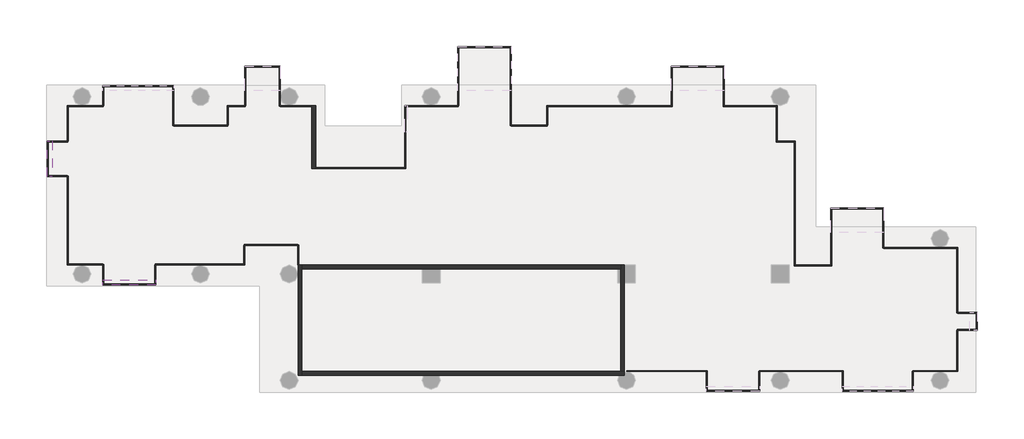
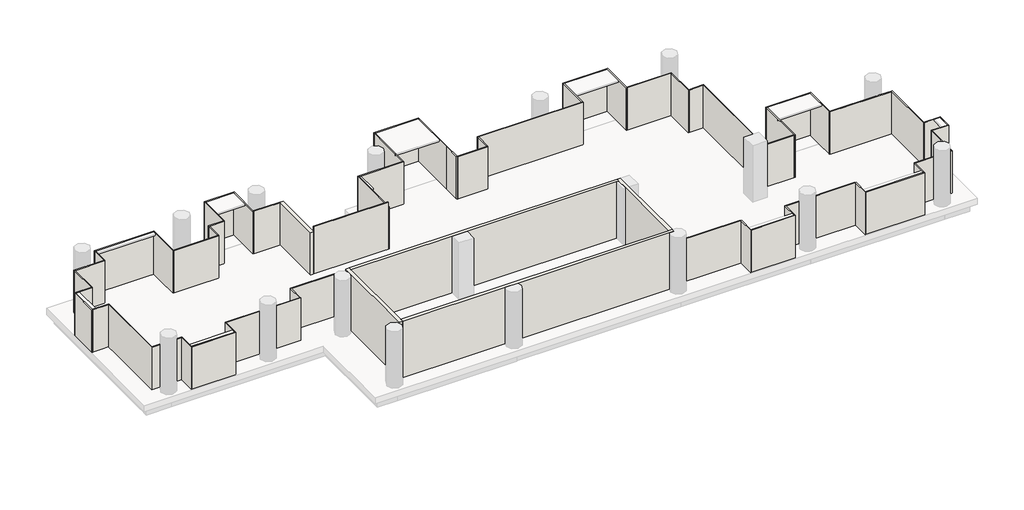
# One storey, part 1 of 2: 65 walls, 2 slabs.
"""IFC4 building model written with IfcOpenShell, lengths in millimetres."""

from ifc_helpers import new_model, si_unit, frame, origin, place, context, project, spatial, polyline, outline, extrude, faceted_brep, element, save

model = new_model("IFC4")

# Units and contexts
model_context = context("Model", 3, world=origin())
ifc_project = project(units=[si_unit("LENGTHUNIT", "METRE", prefix="MILLI")], contexts=[model_context])

# Site, building, storey
site = spatial("IfcSite", under=ifc_project)
building = spatial("IfcBuilding", under=site)
storey = spatial("IfcBuildingStorey", under=building, Name="TW-L 21", Elevation=74799.9999686)

# Slabs
placement = place(None, origin())
element("IfcSlab", 1, ObjectType="AJN-ARC-SLAB-10cm", at=placement, inside=storey, context=model_context, shape_type="SweptSolid", body=[
    extrude(outline(polyline([(105847.1743518, 29750.0), (103147.1743518, 29750.0), (103147.1743518, 30000.0), (105847.1743518, 30000.0), (105847.1743518, 29750.0)])), frame((0.0, 0.0, 77399.9999686), z_axis=(0.0, 0.0, 1.0), x_axis=(1.0, 0.0, 0.0)), (0.0, 0.0, 1.0), 100.0),
])
element("IfcSlab", 2, ObjectType="AJN-ARC-SLAB-10cm", at=placement, inside=storey, context=model_context, shape_type="SweptSolid", body=[
    extrude(outline(polyline([(100600.0, 35250.0), (100347.1743518, 35250.0), (100347.1743518, 37050.0), (100600.0, 37050.0), (100600.0, 35250.0)])), frame((0.0, 0.0, 77399.9999686), z_axis=(0.0, 0.0, 1.0), x_axis=(1.0, 0.0, 0.0)), (0.0, 0.0, 1.0), 100.0),
])

# Walls
element("IfcWall", 3, ObjectType="AJN-ARC-CONCRETE WALL-20cm", at=placement, inside=storey, context=model_context, shape_type="Brep", body=[
    faceted_brep([(113050.0, 30750.0, 78399.9999686), (113050.0, 30750.0, 74799.9999686), (113050.0, 25150.0, 74799.9999686), (113050.0, 25150.0, 78399.9999686), (113250.0, 30750.0, 74799.9999686), (113250.0, 30750.0, 78399.9999686), (113250.0, 30550.0, 78399.9999686), (113250.0, 25350.0, 78399.9999686), (113250.0, 25150.0, 78399.9999686), (113250.0, 25150.0, 74799.9999686), (113250.0, 25350.0, 74799.9999686), (113250.0, 30550.0, 74799.9999686), (113097.1743518, 30750.0, 74799.9999686)], [[[0, 1, 2, 3]], [[4, 5, 6, 7, 8, 9, 10, 11]], [[2, 1, 12, 4, 11, 10, 9]], [[0, 3, 8, 7, 6, 5]], [[3, 2, 9, 8]], [[0, 5, 4, 12, 1]]]),
])
element("IfcWall", 4, ObjectType="AJN-ARC-CONCRETE WALL-20cm", at=placement, inside=storey, context=model_context, shape_type="Brep", body=[
    faceted_brep([(113250.0, 25150.0, 74799.9999686), (119425.8342613, 25150.0, 74799.9999686), (120174.1657387, 25150.0, 74799.9999686), (129325.8342613, 25150.0, 74799.9999686), (129600.0, 25150.0, 74799.9999686), (129600.0, 25150.0, 78399.9999686), (129325.8342613, 25150.0, 78399.9999686), (120174.1657387, 25150.0, 78399.9999686), (119425.8342613, 25150.0, 78399.9999686), (113250.0, 25150.0, 78399.9999686), (113250.0, 25350.0, 74799.9999686), (113250.0, 25350.0, 78399.9999686), (129400.0, 25350.0, 78399.9999686), (129600.0, 25350.0, 78399.9999686), (129600.0, 25350.0, 74799.9999686), (129400.0, 25350.0, 74799.9999686), (129600.0, 25338.7482194, 74799.9999686), (129600.0, 25338.7482194, 78399.9999686)], [[[0, 1, 2, 3, 4, 5, 6, 7, 8, 9]], [[10, 11, 12, 13, 14, 15]], [[4, 3, 2, 1, 0, 10, 15, 14, 16]], [[9, 8, 7, 6, 5, 17, 13, 12, 11]], [[5, 4, 16, 14, 13, 17]], [[0, 9, 11, 10]]]),
])
element("IfcWall", 5, ObjectType="AJN-ARC-CONCRETE WALL-20cm", at=placement, inside=storey, context=model_context, shape_type="Brep", body=[
    faceted_brep([(129600.0, 25350.0, 74799.9999686), (129600.0, 29850.0, 74799.9999686), (129600.0, 30750.0, 74799.9999686), (129600.0, 30750.0, 78399.9999686), (129600.0, 29850.0, 78399.9999686), (129600.0, 25350.0, 78399.9999686), (129400.0, 25350.0, 74799.9999686), (129400.0, 25350.0, 78399.9999686), (129400.0, 29850.0, 78399.9999686), (129400.0, 30550.0, 78399.9999686), (129400.0, 30750.0, 78399.9999686), (129400.0, 30750.0, 74799.9999686), (129400.0, 30550.0, 74799.9999686), (129400.0, 29850.0, 74799.9999686)], [[[0, 1, 2, 3, 4, 5]], [[6, 7, 8, 9, 10, 11, 12, 13]], [[2, 1, 0, 6, 13, 12, 11]], [[5, 4, 3, 10, 9, 8, 7]], [[3, 2, 11, 10]], [[0, 5, 7, 6]]]),
])
element("IfcWall", 6, ObjectType="AJN-ARC-CONCRETE WALL-20cm", at=placement, inside=storey, context=model_context, shape_type="Brep", body=[
    faceted_brep([(129400.0, 30750.0, 74799.9999686), (113250.0, 30750.0, 74799.9999686), (113250.0, 30750.0, 78399.9999686), (129400.0, 30750.0, 78399.9999686), (129400.0, 30550.0, 74799.9999686), (129400.0, 30550.0, 78399.9999686), (129250.0, 30550.0, 78399.9999686), (120250.0, 30550.0, 78399.9999686), (119350.0, 30550.0, 78399.9999686), (113250.0, 30550.0, 78399.9999686), (113250.0, 30550.0, 74799.9999686), (119350.0, 30550.0, 74799.9999686), (120250.0, 30550.0, 74799.9999686), (129250.0, 30550.0, 74799.9999686)], [[[0, 1, 2, 3]], [[4, 5, 6, 7, 8, 9, 10, 11, 12, 13]], [[1, 0, 4, 13, 12, 11, 10]], [[3, 2, 9, 8, 7, 6, 5]], [[0, 3, 5, 4]], [[1, 10, 9, 2]]]),
])
element("IfcWall", 7, ObjectType="AJN-ARC-CONCRETE WALL-20cm", at=placement, inside=storey, context=model_context, shape_type="Brep", body=[
    faceted_brep([(113950.0, 35650.0, 74799.9999686), (113950.0, 38850.001152, 74799.9999686), (113950.0, 38850.001152, 77499.9999686), (113950.0, 35650.0, 77499.9999686), (113750.0, 35650.0, 74799.9999686), (113750.0, 35650.0, 77499.9999686), (113750.0, 38800.001024, 77499.9999686), (113750.0, 38850.001024, 77499.9999686), (113750.0, 38850.001024, 74799.9999686), (113750.0, 38800.001024, 74799.9999686)], [[[0, 1, 2, 3]], [[4, 5, 6, 7, 8, 9]], [[1, 0, 4, 9, 8]], [[3, 2, 7, 6, 5]], [[0, 3, 5, 4]], [[2, 1, 8, 7]]]),
])
element("IfcWall", 8, ObjectType="AJN-ARC-GLASS-50mm", at=placement, inside=storey, context=model_context, shape_type="SweptSolid", body=[
    extrude(outline(polyline([(112150.0, 38850.0), (113750.0, 38850.001024), (113750.0, 38800.001024), (112150.000032, 38800.0), (112150.0, 38850.0)])), frame((0.0, 0.0, 74799.9999686), z_axis=(0.0, 0.0, 1.0), x_axis=(1.0, 0.0, 0.0)), (0.0, 0.0, 1.0), 2700.0),
])
element("IfcWall", 9, ObjectType="AJN-ARC-GLASS-50mm", at=placement, inside=storey, context=model_context, shape_type="Brep", body=[
    faceted_brep([(112150.0, 38824.999984, 74799.9999686), (112150.0, 40850.0, 74799.9999686), (112150.0, 40850.0, 77499.9999686), (112150.0, 38824.999984, 77499.9999686), (112100.0, 38824.999984, 74799.9999686), (112100.0, 38824.999984, 77499.9999686), (112100.0, 40800.0, 77499.9999686), (112100.0, 40850.0, 77499.9999686), (112100.0, 40850.0, 74799.9999686), (112100.0, 40800.0, 74799.9999686)], [[[0, 1, 2, 3]], [[4, 5, 6, 7, 8, 9]], [[1, 0, 4, 9, 8]], [[3, 2, 7, 6, 5]], [[0, 3, 5, 4]], [[2, 1, 8, 7]]]),
])
element("IfcWall", 10, ObjectType="AJN-ARC-GLASS-50mm", at=placement, inside=storey, context=model_context, shape_type="Brep", body=[
    faceted_brep([(112100.0, 40850.0, 74799.9999686), (110350.0, 40850.0, 74799.9999686), (110350.0, 40850.0, 77499.9999686), (112100.0, 40850.0, 77499.9999686), (112100.0, 40800.0, 74799.9999686), (112100.0, 40800.0, 77499.9999686), (110400.0, 40800.0, 77499.9999686), (110350.0, 40800.0, 77499.9999686), (110350.0, 40800.0, 74799.9999686), (110400.0, 40800.0, 74799.9999686)], [[[0, 1, 2, 3]], [[4, 5, 6, 7, 8, 9]], [[1, 0, 4, 9, 8]], [[3, 2, 7, 6, 5]], [[2, 1, 8, 7]], [[0, 3, 5, 4]]]),
])
element("IfcWall", 11, ObjectType="AJN-ARC-GLASS-50mm", at=placement, inside=storey, context=model_context, shape_type="SweptSolid", body=[
    extrude(outline(polyline([(110350.0, 38850.0), (110350.0, 40800.0), (110400.0, 40800.0), (110400.0, 38850.0), (110350.0, 38850.0)])), frame((0.0, 0.0, 74799.9999686), z_axis=(0.0, 0.0, 1.0), x_axis=(1.0, 0.0, 0.0)), (0.0, 0.0, 1.0), 2700.0),
])
element("IfcWall", 12, ObjectType="AJN-ARC-GLASS-50mm", at=placement, inside=storey, context=model_context, shape_type="Brep", body=[
    faceted_brep([(110375.0, 38850.0, 74799.9999686), (109450.0, 38850.0, 74799.9999686), (109450.0, 38850.0, 77499.9999686), (110375.0, 38850.0, 77499.9999686), (110375.0, 38800.0, 74799.9999686), (110375.0, 38800.0, 77499.9999686), (109500.0, 38800.0, 77499.9999686), (109450.0, 38800.0, 77499.9999686), (109450.0, 38800.0, 74799.9999686), (109500.0, 38800.0, 74799.9999686)], [[[0, 1, 2, 3]], [[4, 5, 6, 7, 8, 9]], [[1, 0, 4, 9, 8]], [[3, 2, 7, 6, 5]], [[0, 3, 5, 4]], [[2, 1, 8, 7]]]),
])
element("IfcWall", 13, ObjectType="AJN-ARC-GLASS-50mm", at=placement, inside=storey, context=model_context, shape_type="SweptSolid", body=[
    extrude(outline(polyline([(109450.0, 37850.0), (109450.0, 38800.0), (109500.0, 38800.0), (109500.0, 37850.0), (109450.0, 37850.0)])), frame((0.0, 0.0, 74799.9999686), z_axis=(0.0, 0.0, 1.0), x_axis=(1.0, 0.0, 0.0)), (0.0, 0.0, 1.0), 2700.0),
])
element("IfcWall", 14, ObjectType="AJN-ARC-GLASS-50mm", at=placement, inside=storey, context=model_context, shape_type="SweptSolid", body=[
    extrude(outline(polyline([(106750.0, 37850.0), (109475.0, 37850.0), (109475.0, 37800.0), (106750.0, 37800.0), (106750.0, 37850.0)])), frame((0.0, 0.0, 74799.9999686), z_axis=(0.0, 0.0, 1.0), x_axis=(1.0, 0.0, 0.0)), (0.0, 0.0, 1.0), 2700.0),
])
element("IfcWall", 15, ObjectType="AJN-ARC-GLASS-50mm", at=placement, inside=storey, context=model_context, shape_type="Brep", body=[
    faceted_brep([(106750.0, 37825.0, 74799.9999686), (106750.0, 39850.0, 74799.9999686), (106750.0, 39850.0, 77499.9999686), (106750.0, 37825.0, 77499.9999686), (106700.0, 37825.0, 74799.9999686), (106700.0, 37825.0, 77499.9999686), (106700.0, 39800.0, 77499.9999686), (106700.0, 39850.0, 77499.9999686), (106700.0, 39850.0, 74799.9999686), (106700.0, 39800.0, 74799.9999686)], [[[0, 1, 2, 3]], [[4, 5, 6, 7, 8, 9]], [[1, 0, 4, 9, 8]], [[3, 2, 7, 6, 5]], [[0, 3, 5, 4]], [[2, 1, 8, 7]]]),
])
element("IfcWall", 16, ObjectType="AJN-ARC-GLASS-50mm", at=placement, inside=storey, context=model_context, shape_type="Brep", body=[
    faceted_brep([(106700.0, 39850.0, 74799.9999686), (103150.0, 39850.0, 74799.9999686), (103150.0, 39850.0, 77499.9999686), (106700.0, 39850.0, 77499.9999686), (106700.0, 39800.0, 74799.9999686), (106700.0, 39800.0, 77499.9999686), (103200.0, 39800.0, 77499.9999686), (103150.0, 39800.0, 77499.9999686), (103150.0, 39800.0, 74799.9999686), (103200.0, 39800.0, 74799.9999686)], [[[0, 1, 2, 3]], [[4, 5, 6, 7, 8, 9]], [[1, 0, 4, 9, 8]], [[3, 2, 7, 6, 5]], [[2, 1, 8, 7]], [[0, 3, 5, 4]]]),
])
element("IfcWall", 17, ObjectType="AJN-ARC-GLASS-50mm", at=placement, inside=storey, context=model_context, shape_type="SweptSolid", body=[
    extrude(outline(polyline([(103150.0, 38850.0), (103150.0, 39800.0), (103200.0, 39800.0), (103200.0, 38850.0), (103150.0, 38850.0)])), frame((0.0, 0.0, 74799.9999686), z_axis=(0.0, 0.0, 1.0), x_axis=(1.0, 0.0, 0.0)), (0.0, 0.0, 1.0), 2700.0),
])
element("IfcWall", 18, ObjectType="AJN-ARC-GLASS-50mm", at=placement, inside=storey, context=model_context, shape_type="Brep", body=[
    faceted_brep([(103175.000016, 38849.999984, 74799.9999686), (101347.1743518, 38850.001152, 74799.9999686), (101347.1743518, 38850.001152, 77499.9999686), (103175.000016, 38849.999984, 77499.9999686), (103174.999984, 38799.999984, 74799.9999686), (103174.999984, 38799.999984, 77499.9999686), (101397.1743518, 38800.00112, 77499.9999686), (101347.1743518, 38800.001152, 77499.9999686), (101347.1743518, 38800.001152, 74799.9999686), (101397.1743518, 38800.00112, 74799.9999686)], [[[0, 1, 2, 3]], [[4, 5, 6, 7, 8, 9]], [[1, 0, 4, 9, 8]], [[3, 2, 7, 6, 5]], [[0, 3, 5, 4]], [[2, 1, 8, 7]]]),
])
element("IfcWall", 19, ObjectType="AJN-ARC-GLASS-50mm", at=placement, inside=storey, context=model_context, shape_type="SweptSolid", body=[
    extrude(outline(polyline([(101347.1743518, 37050.0), (101347.1743518, 38800.001152), (101397.1743518, 38800.00112), (101397.1743518, 37050.0), (101347.1743518, 37050.0)])), frame((0.0, 0.0, 74799.9999686), z_axis=(0.0, 0.0, 1.0), x_axis=(1.0, 0.0, 0.0)), (0.0, 0.0, 1.0), 2700.0),
])
element("IfcWall", 20, ObjectType="AJN-ARC-GLASS-50mm", at=placement, inside=storey, context=model_context, shape_type="Brep", body=[
    faceted_brep([(101372.1743518, 37050.0, 74799.9999686), (100347.1743518, 37050.0, 74799.9999686), (100347.1743518, 37050.0, 77499.9999686), (101372.1743518, 37050.0, 77499.9999686), (101372.1743518, 37000.0, 74799.9999686), (101372.1743518, 37000.0, 77499.9999686), (100397.1743518, 37000.0, 77499.9999686), (100347.1743518, 37000.0, 77499.9999686), (100347.1743518, 37000.0, 74799.9999686), (100397.1743518, 37000.0, 74799.9999686)], [[[0, 1, 2, 3]], [[4, 5, 6, 7, 8, 9]], [[1, 0, 4, 9, 8]], [[3, 2, 7, 6, 5]], [[0, 3, 5, 4]], [[2, 1, 8, 7]]]),
])
element("IfcWall", 21, ObjectType="AJN-ARC-GLASS-50mm", at=placement, inside=storey, context=model_context, shape_type="Brep", body=[
    faceted_brep([(100347.1743518, 37000.0, 74799.9999686), (100347.1743518, 35250.0, 74799.9999686), (100347.1743518, 35250.0, 77499.9999686), (100347.1743518, 37000.0, 77499.9999686), (100397.1743518, 37000.0, 74799.9999686), (100397.1743518, 37000.0, 77499.9999686), (100397.1743518, 35300.0, 77499.9999686), (100397.1743518, 35250.0, 77499.9999686), (100397.1743518, 35250.0, 74799.9999686), (100397.1743518, 35300.0, 74799.9999686)], [[[0, 1, 2, 3]], [[4, 5, 6, 7, 8, 9]], [[1, 0, 4, 9, 8]], [[3, 2, 7, 6, 5]], [[2, 1, 8, 7]], [[0, 3, 5, 4]]]),
])
element("IfcWall", 22, ObjectType="AJN-ARC-GLASS-50mm", at=placement, inside=storey, context=model_context, shape_type="SweptSolid", body=[
    extrude(outline(polyline([(101347.1743518, 35250.0), (100397.1743518, 35250.0), (100397.1743518, 35300.0), (101347.1743518, 35300.0), (101347.1743518, 35250.0)])), frame((0.0, 0.0, 74799.9999686), z_axis=(0.0, 0.0, 1.0), x_axis=(1.0, 0.0, 0.0)), (0.0, 0.0, 1.0), 2700.0),
])
element("IfcWall", 23, ObjectType="AJN-ARC-GLASS-50mm", at=placement, inside=storey, context=model_context, shape_type="Brep", body=[
    faceted_brep([(101347.1743518, 35275.0, 74799.9999686), (101347.1743518, 30750.0, 74799.9999686), (101347.1743518, 30750.0, 77499.9999686), (101347.1743518, 35275.0, 77499.9999686), (101397.1743518, 35275.0, 74799.9999686), (101397.1743518, 35275.0, 77499.9999686), (101397.1743518, 30800.0, 77499.9999686), (101397.1743518, 30750.0, 77499.9999686), (101397.1743518, 30750.0, 74799.9999686), (101397.1743518, 30800.0, 74799.9999686)], [[[0, 1, 2, 3]], [[4, 5, 6, 7, 8, 9]], [[1, 0, 4, 9, 8]], [[3, 2, 7, 6, 5]], [[0, 3, 5, 4]], [[2, 1, 8, 7]]]),
])
element("IfcWall", 24, ObjectType="AJN-ARC-GLASS-50mm", at=placement, inside=storey, context=model_context, shape_type="SweptSolid", body=[
    extrude(outline(polyline([(103147.1743518, 30750.0), (101397.1743518, 30750.0), (101397.1743518, 30800.0), (103147.1743518, 30800.0), (103147.1743518, 30750.0)])), frame((0.0, 0.0, 74799.9999686), z_axis=(0.0, 0.0, 1.0), x_axis=(1.0, 0.0, 0.0)), (0.0, 0.0, 1.0), 2700.0),
])
element("IfcWall", 25, ObjectType="AJN-ARC-GLASS-50mm", at=placement, inside=storey, context=model_context, shape_type="Brep", body=[
    faceted_brep([(103147.1743518, 30775.0, 74799.9999686), (103147.1743518, 29750.0, 74799.9999686), (103147.1743518, 29750.0, 77499.9999686), (103147.1743518, 30775.0, 77499.9999686), (103197.1743518, 30775.0, 74799.9999686), (103197.1743518, 30775.0, 77499.9999686), (103197.1743518, 29800.0, 77499.9999686), (103197.1743518, 29750.0, 77499.9999686), (103197.1743518, 29750.0, 74799.9999686), (103197.1743518, 29800.0, 74799.9999686)], [[[0, 1, 2, 3]], [[4, 5, 6, 7, 8, 9]], [[1, 0, 4, 9, 8]], [[3, 2, 7, 6, 5]], [[0, 3, 5, 4]], [[2, 1, 8, 7]]]),
])
element("IfcWall", 26, ObjectType="AJN-ARC-GLASS-50mm", at=placement, inside=storey, context=model_context, shape_type="Brep", body=[
    faceted_brep([(103197.1743518, 29750.0, 74799.9999686), (105847.1743518, 29750.0, 74799.9999686), (105847.1743518, 29750.0, 77499.9999686), (103197.1743518, 29750.0, 77499.9999686), (103197.1743518, 29800.0, 74799.9999686), (103197.1743518, 29800.0, 77499.9999686), (105797.1743518, 29800.0, 77499.9999686), (105847.1743518, 29800.0, 77499.9999686), (105847.1743518, 29800.0, 74799.9999686), (105797.1743518, 29800.0, 74799.9999686)], [[[0, 1, 2, 3]], [[4, 5, 6, 7, 8, 9]], [[1, 0, 4, 9, 8]], [[3, 2, 7, 6, 5]], [[2, 1, 8, 7]], [[0, 3, 5, 4]]]),
])
element("IfcWall", 27, ObjectType="AJN-ARC-GLASS-50mm", at=placement, inside=storey, context=model_context, shape_type="SweptSolid", body=[
    extrude(outline(polyline([(105847.1743518, 30750.0), (105847.1743518, 29800.0), (105797.1743518, 29800.0), (105797.1743518, 30750.0), (105847.1743518, 30750.0)])), frame((0.0, 0.0, 74799.9999686), z_axis=(0.0, 0.0, 1.0), x_axis=(1.0, 0.0, 0.0)), (0.0, 0.0, 1.0), 2700.0),
])
element("IfcWall", 28, ObjectType="AJN-ARC-GLASS-50mm", at=placement, inside=storey, context=model_context, shape_type="Brep", body=[
    faceted_brep([(105822.1743518, 30750.0, 74799.9999686), (110347.1743518, 30750.0, 74799.9999686), (110347.1743518, 30750.0, 77499.9999686), (105822.1743518, 30750.0, 77499.9999686), (105822.1743518, 30800.0, 74799.9999686), (105822.1743518, 30800.0, 77499.9999686), (110297.1743518, 30800.0, 77499.9999686), (110347.1743518, 30800.0, 77499.9999686), (110347.1743518, 30800.0, 74799.9999686), (110297.1743518, 30800.0, 74799.9999686)], [[[0, 1, 2, 3]], [[4, 5, 6, 7, 8, 9]], [[1, 0, 4, 9, 8]], [[3, 2, 7, 6, 5]], [[0, 3, 5, 4]], [[2, 1, 8, 7]]]),
])
element("IfcWall", 29, ObjectType="AJN-ARC-GLASS-50mm", at=placement, inside=storey, context=model_context, shape_type="SweptSolid", body=[
    extrude(outline(polyline([(110347.1743518, 31750.0), (110347.1743518, 30800.0), (110297.1743518, 30800.0), (110297.1743518, 31750.0), (110347.1743518, 31750.0)])), frame((0.0, 0.0, 74799.9999686), z_axis=(0.0, 0.0, 1.0), x_axis=(1.0, 0.0, 0.0)), (0.0, 0.0, 1.0), 2700.0),
])
element("IfcWall", 30, ObjectType="AJN-ARC-GLASS-50mm", at=placement, inside=storey, context=model_context, shape_type="SweptSolid", body=[
    extrude(outline(polyline([(113047.1743518, 31750.0), (110322.1743518, 31750.0), (110322.1743518, 31800.0), (113047.1743518, 31800.0), (113047.1743518, 31750.0)])), frame((0.0, 0.0, 74799.9999686), z_axis=(0.0, 0.0, 1.0), x_axis=(1.0, 0.0, 0.0)), (0.0, 0.0, 1.0), 2700.0),
])
element("IfcWall", 31, ObjectType="AJN-ARC-GLASS-50mm", at=placement, inside=storey, context=model_context, shape_type="Brep", body=[
    faceted_brep([(113047.1743518, 31775.0, 74799.9999686), (113047.1743518, 30750.0, 74799.9999686), (113047.1743518, 30750.0, 77499.9999686), (113047.1743518, 31775.0, 77499.9999686), (113097.1743518, 31775.0, 74799.9999686), (113097.1743518, 31775.0, 77499.9999686), (113097.1743518, 30750.0, 77499.9999686), (113097.1743518, 30750.0, 74799.9999686), (113050.0, 30750.0, 74799.9999686)], [[[0, 1, 2, 3]], [[4, 5, 6, 7]], [[1, 0, 4, 7, 8]], [[3, 2, 6, 5]], [[0, 3, 5, 4]], [[2, 1, 8, 7, 6]]]),
])
element("IfcWall", 32, ObjectType="AJN-ARC-GLASS-50mm", at=placement, inside=storey, context=model_context, shape_type="Brep", body=[
    faceted_brep([(138250.0, 30700.0, 74799.9999686), (138250.0, 30750.0, 74799.9999686), (138250.0, 37050.0, 74799.9999686), (138250.0, 37050.0, 77499.9999686), (138250.0, 30750.0, 77499.9999686), (138250.0, 30700.0, 77499.9999686), (138200.0, 30700.0, 74799.9999686), (138200.0, 30700.0, 77499.9999686), (138200.0, 37000.0, 77499.9999686), (138200.0, 37050.0, 77499.9999686), (138200.0, 37050.0, 74799.9999686), (138200.0, 37000.0, 74799.9999686)], [[[0, 1, 2, 3, 4, 5]], [[6, 7, 8, 9, 10, 11]], [[2, 1, 0, 6, 11, 10]], [[5, 4, 3, 9, 8, 7]], [[0, 5, 7, 6]], [[3, 2, 10, 9]]]),
])
element("IfcWall", 33, ObjectType="AJN-ARC-GLASS-50mm", at=placement, inside=storey, context=model_context, shape_type="Brep", body=[
    faceted_brep([(137350.0, 38850.0, 74799.9999686), (134661.0540705, 38850.0, 74799.9999686), (134661.0540705, 38850.0, 77499.9999686), (137350.0, 38850.0, 77499.9999686), (137350.0, 38800.0, 74799.9999686), (137350.0, 38800.0, 77499.9999686), (137300.0, 38800.0, 77499.9999686), (134661.0540705, 38800.0, 77499.9999686), (134661.0540705, 38800.0, 74799.9999686), (137300.0, 38800.0, 74799.9999686)], [[[0, 1, 2, 3]], [[4, 5, 6, 7, 8, 9]], [[1, 0, 4, 9, 8]], [[3, 2, 7, 6, 5]], [[2, 1, 8, 7]], [[0, 3, 5, 4]]]),
])
element("IfcWall", 34, ObjectType="AJN-ARC-GLASS-50mm", at=placement, inside=storey, context=model_context, shape_type="Brep", body=[
    faceted_brep([(134661.0540705, 38800.0, 74799.9999686), (134661.0540705, 38850.0, 74799.9999686), (134661.0540705, 40850.0, 74799.9999686), (134661.0540705, 40850.0, 77499.9999686), (134661.0540705, 38850.0, 77499.9999686), (134661.0540705, 38800.0, 77499.9999686), (134611.0540705, 38800.0, 74799.9999686), (134611.0540705, 38800.0, 77499.9999686), (134611.0540705, 40800.0, 77499.9999686), (134611.0540705, 40850.0, 77499.9999686), (134611.0540705, 40850.0, 74799.9999686), (134611.0540705, 40800.0, 74799.9999686)], [[[0, 1, 2, 3, 4, 5]], [[6, 7, 8, 9, 10, 11]], [[2, 1, 0, 6, 11, 10]], [[5, 4, 3, 9, 8, 7]], [[3, 2, 10, 9]], [[0, 5, 7, 6]]]),
])
element("IfcWall", 35, ObjectType="AJN-ARC-GLASS-50mm", at=placement, inside=storey, context=model_context, shape_type="Brep", body=[
    faceted_brep([(134611.0540705, 40850.0, 74799.9999686), (131961.0540705, 40850.0, 74799.9999686), (131961.0540705, 40850.0, 77499.9999686), (134611.0540705, 40850.0, 77499.9999686), (134611.0540705, 40800.0, 74799.9999686), (134611.0540705, 40800.0, 77499.9999686), (132011.0540705, 40800.0, 77499.9999686), (131961.0540705, 40800.0, 77499.9999686), (131961.0540705, 40800.0, 74799.9999686), (132011.0540705, 40800.0, 74799.9999686)], [[[0, 1, 2, 3]], [[4, 5, 6, 7, 8, 9]], [[1, 0, 4, 9, 8]], [[3, 2, 7, 6, 5]], [[2, 1, 8, 7]], [[0, 3, 5, 4]]]),
])
element("IfcWall", 36, ObjectType="AJN-ARC-GLASS-50mm", at=placement, inside=storey, context=model_context, shape_type="SweptSolid", body=[
    extrude(outline(polyline([(131961.0540705, 38850.0), (131961.0540705, 40800.0), (132011.0540705, 40800.0), (132011.0540705, 38850.0), (131961.0540705, 38850.0)])), frame((0.0, 0.0, 74799.9999686), z_axis=(0.0, 0.0, 1.0), x_axis=(1.0, 0.0, 0.0)), (0.0, 0.0, 1.0), 2700.0),
])
element("IfcWall", 37, ObjectType="AJN-ARC-GLASS-50mm", at=placement, inside=storey, context=model_context, shape_type="Brep", body=[
    faceted_brep([(132011.0540705, 38850.0, 74799.9999686), (131961.0540705, 38850.0, 74799.9999686), (125657.0344085, 38850.0, 74799.9999686), (125657.0344085, 38850.0, 77499.9999686), (131961.0540705, 38850.0, 77499.9999686), (132011.0540705, 38850.0, 77499.9999686), (132011.0540705, 38800.0, 74799.9999686), (132011.0540705, 38800.0, 77499.9999686), (125707.0344085, 38800.0, 77499.9999686), (125657.0344085, 38800.0, 77499.9999686), (125657.0344085, 38800.0, 74799.9999686), (125707.0344085, 38800.0, 74799.9999686)], [[[0, 1, 2, 3, 4, 5]], [[6, 7, 8, 9, 10, 11]], [[2, 1, 0, 6, 11, 10]], [[5, 4, 3, 9, 8, 7]], [[3, 2, 10, 9]], [[0, 5, 7, 6]]]),
])
element("IfcWall", 38, ObjectType="AJN-ARC-GLASS-50mm", at=placement, inside=storey, context=model_context, shape_type="SweptSolid", body=[
    extrude(outline(polyline([(125657.0344085, 37850.0), (125657.0344085, 38800.0), (125707.0344085, 38800.0), (125707.0344085, 37850.0), (125657.0344085, 37850.0)])), frame((0.0, 0.0, 74799.9999686), z_axis=(0.0, 0.0, 1.0), x_axis=(1.0, 0.0, 0.0)), (0.0, 0.0, 1.0), 2700.0),
])
element("IfcWall", 39, ObjectType="AJN-ARC-GLASS-50mm", at=placement, inside=storey, context=model_context, shape_type="SweptSolid", body=[
    extrude(outline(polyline([(123857.0344085, 37850.0), (125682.0344085, 37850.0), (125682.0344085, 37800.0), (123857.0344085, 37800.0), (123857.0344085, 37850.0)])), frame((0.0, 0.0, 74799.9999686), z_axis=(0.0, 0.0, 1.0), x_axis=(1.0, 0.0, 0.0)), (0.0, 0.0, 1.0), 2700.0),
])
element("IfcWall", 40, ObjectType="AJN-ARC-GLASS-50mm", at=placement, inside=storey, context=model_context, shape_type="SweptSolid", body=[
    extrude(outline(polyline([(123857.0344085, 38850.0), (123857.0344085, 37825.0), (123807.0344085, 37825.0), (123807.0344085, 38850.0), (123857.0344085, 38850.0)])), frame((0.0, 0.0, 74799.9999686), z_axis=(0.0, 0.0, 1.0), x_axis=(1.0, 0.0, 0.0)), (0.0, 0.0, 1.0), 2700.0),
])
element("IfcWall", 41, ObjectType="AJN-ARC-GLASS-50mm", at=placement, inside=storey, context=model_context, shape_type="Brep", body=[
    faceted_brep([(123857.0344085, 38850.0, 74799.9999686), (123857.0344085, 41850.0, 74799.9999686), (123857.0344085, 41850.0, 77499.9999686), (123857.0344085, 38850.0, 77499.9999686), (123807.0344085, 38850.0, 74799.9999686), (123807.0344085, 38850.0, 77499.9999686), (123807.0344085, 41800.0, 77499.9999686), (123807.0344085, 41850.0, 77499.9999686), (123807.0344085, 41850.0, 74799.9999686), (123807.0344085, 41800.0, 74799.9999686)], [[[0, 1, 2, 3]], [[4, 5, 6, 7, 8, 9]], [[1, 0, 4, 9, 8]], [[3, 2, 7, 6, 5]], [[0, 3, 5, 4]], [[2, 1, 8, 7]]]),
])
element("IfcWall", 42, ObjectType="AJN-ARC-GLASS-50mm", at=placement, inside=storey, context=model_context, shape_type="Brep", body=[
    faceted_brep([(123807.0344085, 41850.0, 74799.9999686), (121157.0344085, 41850.0, 74799.9999686), (121157.0344085, 41850.0, 77499.9999686), (123807.0344085, 41850.0, 77499.9999686), (123807.0344085, 41800.0, 74799.9999686), (123807.0344085, 41800.0, 77499.9999686), (121207.0344085, 41800.0, 77499.9999686), (121157.0344085, 41800.0, 77499.9999686), (121157.0344085, 41800.0, 74799.9999686), (121207.0344085, 41800.0, 74799.9999686)], [[[0, 1, 2, 3]], [[4, 5, 6, 7, 8, 9]], [[1, 0, 4, 9, 8]], [[3, 2, 7, 6, 5]], [[2, 1, 8, 7]], [[0, 3, 5, 4]]]),
])
element("IfcWall", 43, ObjectType="AJN-ARC-GLASS-50mm", at=placement, inside=storey, context=model_context, shape_type="SweptSolid", body=[
    extrude(outline(polyline([(121157.0344085, 38850.0), (121157.0344085, 41800.0), (121207.0344085, 41800.0), (121207.0344085, 38850.0), (121157.0344085, 38850.0)])), frame((0.0, 0.0, 74799.9999686), z_axis=(0.0, 0.0, 1.0), x_axis=(1.0, 0.0, 0.0)), (0.0, 0.0, 1.0), 2700.0),
])
element("IfcWall", 44, ObjectType="AJN-ARC-GLASS-50mm", at=placement, inside=storey, context=model_context, shape_type="Brep", body=[
    faceted_brep([(121182.0344085, 38850.0, 74799.9999686), (118450.0, 38850.0, 74799.9999686), (118450.0, 38850.0, 77499.9999686), (121182.0344085, 38850.0, 77499.9999686), (121182.0344085, 38800.0, 74799.9999686), (121182.0344085, 38800.0, 77499.9999686), (118500.0, 38800.0, 77499.9999686), (118450.0, 38800.0, 77499.9999686), (118450.0, 38800.0, 74799.9999686), (118500.0, 38800.0, 74799.9999686)], [[[0, 1, 2, 3]], [[4, 5, 6, 7, 8, 9]], [[1, 0, 4, 9, 8]], [[3, 2, 7, 6, 5]], [[0, 3, 5, 4]], [[2, 1, 8, 7]]]),
])
element("IfcWall", 45, ObjectType="AJN-ARC-GLASS-50mm", at=placement, inside=storey, context=model_context, shape_type="SweptSolid", body=[
    extrude(outline(polyline([(133753.0147465, 25350.0), (129714.068817, 25350.0), (129714.068817, 25400.0), (133753.0147465, 25400.0), (133753.0147465, 25350.0)])), frame((0.0, 0.0, 74799.9999686), z_axis=(0.0, 0.0, 1.0), x_axis=(1.0, 0.0, 0.0)), (0.0, 0.0, 1.0), 2700.0),
])
element("IfcWall", 46, ObjectType="AJN-ARC-GLASS-50mm", at=placement, inside=storey, context=model_context, shape_type="Brep", body=[
    faceted_brep([(133753.0147465, 25375.0, 74799.9999686), (133753.0147465, 24350.0, 74799.9999686), (133753.0147465, 24350.0, 77499.9999686), (133753.0147465, 25375.0, 77499.9999686), (133803.0147465, 25375.0, 74799.9999686), (133803.0147465, 25375.0, 77499.9999686), (133803.0147465, 24400.0, 77499.9999686), (133803.0147465, 24350.0, 77499.9999686), (133803.0147465, 24350.0, 74799.9999686), (133803.0147465, 24400.0, 74799.9999686)], [[[0, 1, 2, 3]], [[4, 5, 6, 7, 8, 9]], [[1, 0, 4, 9, 8]], [[3, 2, 7, 6, 5]], [[0, 3, 5, 4]], [[2, 1, 8, 7]]]),
])
element("IfcWall", 47, ObjectType="AJN-ARC-GLASS-50mm", at=placement, inside=storey, context=model_context, shape_type="Brep", body=[
    faceted_brep([(133803.0147465, 24350.0, 74799.9999686), (136453.0147465, 24350.0, 74799.9999686), (136453.0147465, 24350.0, 77499.9999686), (133803.0147465, 24350.0, 77499.9999686), (133803.0147465, 24400.0, 74799.9999686), (133803.0147465, 24400.0, 77499.9999686), (136403.0147465, 24400.0, 77499.9999686), (136453.0147465, 24400.0, 77499.9999686), (136453.0147465, 24400.0, 74799.9999686), (136403.0147465, 24400.0, 74799.9999686)], [[[0, 1, 2, 3]], [[4, 5, 6, 7, 8, 9]], [[1, 0, 4, 9, 8]], [[3, 2, 7, 6, 5]], [[2, 1, 8, 7]], [[0, 3, 5, 4]]]),
])
element("IfcWall", 48, ObjectType="AJN-ARC-GLASS-50mm", at=placement, inside=storey, context=model_context, shape_type="SweptSolid", body=[
    extrude(outline(polyline([(136453.0147465, 25350.0), (136453.0147465, 24400.0), (136403.0147465, 24400.0), (136403.0147465, 25350.0), (136453.0147465, 25350.0)])), frame((0.0, 0.0, 74799.9999686), z_axis=(0.0, 0.0, 1.0), x_axis=(1.0, 0.0, 0.0)), (0.0, 0.0, 1.0), 2700.0),
])
element("IfcWall", 49, ObjectType="AJN-ARC-GLASS-50mm", at=placement, inside=storey, context=model_context, shape_type="SweptSolid", body=[
    extrude(outline(polyline([(140653.3466999, 25350.0), (136428.0147465, 25350.0), (136428.0147465, 25400.0), (140653.3466999, 25400.0), (140653.3466999, 25350.0)])), frame((0.0, 0.0, 74799.9999686), z_axis=(0.0, 0.0, 1.0), x_axis=(1.0, 0.0, 0.0)), (0.0, 0.0, 1.0), 2700.0),
])
element("IfcWall", 50, ObjectType="AJN-ARC-GLASS-50mm", at=placement, inside=storey, context=model_context, shape_type="Brep", body=[
    faceted_brep([(140653.3466999, 25375.0, 74799.9999686), (140653.3466999, 24350.0, 74799.9999686), (140653.3466999, 24350.0, 77499.9999686), (140653.3466999, 25375.0, 77499.9999686), (140703.3466999, 25375.0, 74799.9999686), (140703.3466999, 25375.0, 77499.9999686), (140703.3466999, 24400.0, 77499.9999686), (140703.3466999, 24350.0, 77499.9999686), (140703.3466999, 24350.0, 74799.9999686), (140703.3466999, 24400.0, 74799.9999686)], [[[0, 1, 2, 3]], [[4, 5, 6, 7, 8, 9]], [[1, 0, 4, 9, 8]], [[3, 2, 7, 6, 5]], [[0, 3, 5, 4]], [[2, 1, 8, 7]]]),
])
element("IfcWall", 51, ObjectType="AJN-ARC-GLASS-50mm", at=placement, inside=storey, context=model_context, shape_type="Brep", body=[
    faceted_brep([(140703.3466999, 24350.0, 74799.9999686), (144253.3466999, 24350.0, 74799.9999686), (144253.3466999, 24350.0, 77499.9999686), (140703.3466999, 24350.0, 77499.9999686), (140703.3466999, 24400.0, 74799.9999686), (140703.3466999, 24400.0, 77499.9999686), (144203.3466999, 24400.0, 77499.9999686), (144253.3466999, 24400.0, 77499.9999686), (144253.3466999, 24400.0, 74799.9999686), (144203.3466999, 24400.0, 74799.9999686)], [[[0, 1, 2, 3]], [[4, 5, 6, 7, 8, 9]], [[1, 0, 4, 9, 8]], [[3, 2, 7, 6, 5]], [[2, 1, 8, 7]], [[0, 3, 5, 4]]]),
])
element("IfcWall", 52, ObjectType="AJN-ARC-GLASS-50mm", at=placement, inside=storey, context=model_context, shape_type="SweptSolid", body=[
    extrude(outline(polyline([(144253.3466999, 25350.0), (144253.3466999, 24400.0), (144203.3466999, 24400.0), (144203.3466999, 25350.0), (144253.3466999, 25350.0)])), frame((0.0, 0.0, 74799.9999686), z_axis=(0.0, 0.0, 1.0), x_axis=(1.0, 0.0, 0.0)), (0.0, 0.0, 1.0), 2700.0),
])
element("IfcWall", 53, ObjectType="AJN-ARC-GLASS-50mm", at=placement, inside=storey, context=model_context, shape_type="Brep", body=[
    faceted_brep([(144228.3466999, 25350.0, 74799.9999686), (146497.681474, 25350.0, 74799.9999686), (146497.681474, 25350.0, 77499.9999686), (144228.3466999, 25350.0, 77499.9999686), (144228.3466999, 25400.0, 74799.9999686), (144228.3466999, 25400.0, 77499.9999686), (146447.681474, 25400.0, 77499.9999686), (146497.681474, 25400.0, 77499.9999686), (146497.681474, 25400.0, 74799.9999686), (146447.681474, 25400.0, 74799.9999686)], [[[0, 1, 2, 3]], [[4, 5, 6, 7, 8, 9]], [[1, 0, 4, 9, 8]], [[3, 2, 7, 6, 5]], [[0, 3, 5, 4]], [[2, 1, 8, 7]]]),
])
element("IfcWall", 54, ObjectType="AJN-ARC-GLASS-50mm", at=placement, inside=storey, context=model_context, shape_type="SweptSolid", body=[
    extrude(outline(polyline([(146497.681474, 27446.1298569), (146497.681474, 25400.0), (146447.681474, 25400.0), (146447.681474, 27446.1298569), (146497.681474, 27446.1298569)])), frame((0.0, 0.0, 74799.9999686), z_axis=(0.0, 0.0, 1.0), x_axis=(1.0, 0.0, 0.0)), (0.0, 0.0, 1.0), 2700.0),
])
element("IfcWall", 55, ObjectType="AJN-ARC-GLASS-50mm", at=placement, inside=storey, context=model_context, shape_type="Brep", body=[
    faceted_brep([(146472.681474, 27446.1298569, 74799.9999686), (147497.681474, 27446.1298569, 74799.9999686), (147497.681474, 27446.1298569, 77499.9999686), (146472.681474, 27446.1298569, 77499.9999686), (146472.681474, 27496.1298569, 74799.9999686), (146472.681474, 27496.1298569, 77499.9999686), (147447.681474, 27496.1298569, 77499.9999686), (147497.681474, 27496.1298569, 77499.9999686), (147497.681474, 27496.1298569, 74799.9999686), (147447.681474, 27496.1298569, 74799.9999686)], [[[0, 1, 2, 3]], [[4, 5, 6, 7, 8, 9]], [[1, 0, 4, 9, 8]], [[3, 2, 7, 6, 5]], [[0, 3, 5, 4]], [[2, 1, 8, 7]]]),
])
element("IfcWall", 56, ObjectType="AJN-ARC-GLASS-50mm", at=placement, inside=storey, context=model_context, shape_type="Brep", body=[
    faceted_brep([(147497.681474, 27496.1298569, 74799.9999686), (147497.681474, 28346.1298569, 74799.9999686), (147497.681474, 28346.1298569, 77499.9999686), (147497.681474, 27496.1298569, 77499.9999686), (147447.681474, 27496.1298569, 74799.9999686), (147447.681474, 27496.1298569, 77499.9999686), (147447.681474, 28296.1298569, 77499.9999686), (147447.681474, 28346.1298569, 77499.9999686), (147447.681474, 28346.1298569, 74799.9999686), (147447.681474, 28296.1298569, 74799.9999686)], [[[0, 1, 2, 3]], [[4, 5, 6, 7, 8, 9]], [[1, 0, 4, 9, 8]], [[3, 2, 7, 6, 5]], [[2, 1, 8, 7]], [[0, 3, 5, 4]]]),
])
element("IfcWall", 57, ObjectType="AJN-ARC-GLASS-50mm", at=placement, inside=storey, context=model_context, shape_type="SweptSolid", body=[
    extrude(outline(polyline([(146497.681474, 28346.1298569), (147447.681474, 28346.1298569), (147447.681474, 28296.1298569), (146497.681474, 28296.1298569), (146497.681474, 28346.1298569)])), frame((0.0, 0.0, 74799.9999686), z_axis=(0.0, 0.0, 1.0), x_axis=(1.0, 0.0, 0.0)), (0.0, 0.0, 1.0), 2700.0),
])
element("IfcWall", 58, ObjectType="AJN-ARC-GLASS-50mm", at=placement, inside=storey, context=model_context, shape_type="Brep", body=[
    faceted_brep([(146497.681474, 28321.1298569, 74799.9999686), (146497.681474, 31651.6593424, 74799.9999686), (146497.681474, 31651.6593424, 77499.9999686), (146497.681474, 28321.1298569, 77499.9999686), (146447.681474, 28321.1298569, 74799.9999686), (146447.681474, 28321.1298569, 77499.9999686), (146447.681474, 31601.6593424, 77499.9999686), (146447.681474, 31651.6593424, 77499.9999686), (146447.681474, 31651.6593424, 74799.9999686), (146447.681474, 31601.6593424, 74799.9999686)], [[[0, 1, 2, 3]], [[4, 5, 6, 7, 8, 9]], [[1, 0, 4, 9, 8]], [[3, 2, 7, 6, 5]], [[0, 3, 5, 4]], [[2, 1, 8, 7]]]),
])
element("IfcWall", 59, ObjectType="AJN-ARC-GLASS-50mm", at=placement, inside=storey, context=model_context, shape_type="Brep", body=[
    faceted_brep([(146447.681474, 31651.6593424, 74799.9999686), (145638.6089983, 31651.6593424, 74799.9999686), (145561.3910017, 31651.6593424, 74799.9999686), (142750.0, 31651.6593424, 74799.9999686), (142750.0, 31651.6593424, 77499.9999686), (145561.3910017, 31651.6593424, 77499.9999686), (145638.6089983, 31651.6593424, 77499.9999686), (146447.681474, 31651.6593424, 77499.9999686), (146447.681474, 31601.6593424, 74799.9999686), (146447.681474, 31601.6593424, 77499.9999686), (142750.0, 31601.6593424, 77499.9999686), (142750.0, 31601.6593424, 74799.9999686)], [[[0, 1, 2, 3, 4, 5, 6, 7]], [[8, 9, 10, 11]], [[3, 2, 1, 0, 8, 11]], [[4, 3, 11, 10]], [[7, 6, 5, 4, 10, 9]], [[0, 7, 9, 8]]]),
])
element("IfcWall", 60, ObjectType="AJN-ARC-GLASS-50mm", at=placement, inside=storey, context=model_context, shape_type="Brep", body=[
    faceted_brep([(142750.0, 31626.6593424, 74799.9999686), (142750.0, 33651.6593424, 74799.9999686), (142750.0, 33651.6593424, 77499.9999686), (142750.0, 31626.6593424, 77499.9999686), (142700.0, 31626.6593424, 74799.9999686), (142700.0, 31626.6593424, 77499.9999686), (142700.0, 33601.6593424, 77499.9999686), (142700.0, 33651.6593424, 77499.9999686), (142700.0, 33651.6593424, 74799.9999686), (142700.0, 33601.6593424, 74799.9999686)], [[[0, 1, 2, 3]], [[4, 5, 6, 7, 8, 9]], [[1, 0, 4, 9, 8]], [[3, 2, 7, 6, 5]], [[0, 3, 5, 4]], [[2, 1, 8, 7]]]),
])
element("IfcWall", 61, ObjectType="AJN-ARC-GLASS-50mm", at=placement, inside=storey, context=model_context, shape_type="Brep", body=[
    faceted_brep([(142700.0, 33651.6593424, 74799.9999686), (140050.0, 33651.6593424, 74799.9999686), (140050.0, 33651.6593424, 77499.9999686), (142700.0, 33651.6593424, 77499.9999686), (142700.0, 33601.6593424, 74799.9999686), (142700.0, 33601.6593424, 77499.9999686), (140100.0, 33601.6593424, 77499.9999686), (140050.0, 33601.6593424, 77499.9999686), (140050.0, 33601.6593424, 74799.9999686), (140100.0, 33601.6593424, 74799.9999686)], [[[0, 1, 2, 3]], [[4, 5, 6, 7, 8, 9]], [[1, 0, 4, 9, 8]], [[3, 2, 7, 6, 5]], [[2, 1, 8, 7]], [[0, 3, 5, 4]]]),
])
element("IfcWall", 62, ObjectType="AJN-ARC-GLASS-50mm", at=placement, inside=storey, context=model_context, shape_type="Brep", body=[
    faceted_brep([(140050.0, 33601.6593424, 74799.9999686), (140050.0, 30750.0, 74799.9999686), (140050.0, 30700.0, 74799.9999686), (140050.0, 30700.0, 77499.9999686), (140050.0, 30750.0, 77499.9999686), (140050.0, 33601.6593424, 77499.9999686), (140100.0, 33601.6593424, 74799.9999686), (140100.0, 33601.6593424, 77499.9999686), (140100.0, 30700.0, 77499.9999686), (140100.0, 30700.0, 74799.9999686)], [[[0, 1, 2, 3, 4, 5]], [[6, 7, 8, 9]], [[2, 1, 0, 6, 9]], [[5, 4, 3, 8, 7]], [[0, 5, 7, 6]], [[3, 2, 9, 8]]]),
])
element("IfcWall", 63, ObjectType="AJN-ARC-GLASS-50mm", at=placement, inside=storey, context=model_context, shape_type="SweptSolid", body=[
    extrude(outline(polyline([(138250.0, 30750.0), (140050.0, 30750.0), (140050.0, 30700.0), (138250.0, 30700.0), (138250.0, 30750.0)])), frame((0.0, 0.0, 74799.9999686), z_axis=(0.0, 0.0, 1.0), x_axis=(1.0, 0.0, 0.0)), (0.0, 0.0, 1.0), 2700.0),
])
element("IfcWall", 64, ObjectType="AJN-ARC-GLASS-50mm", at=placement, inside=storey, context=model_context, shape_type="SweptSolid", body=[
    extrude(outline(polyline([(118450.0, 35650.0), (118450.0, 38800.0), (118500.0, 38800.0), (118500.0, 35650.0), (118450.0, 35650.0)])), frame((0.0, 0.0, 74799.9999686), z_axis=(0.0, 0.0, 1.0), x_axis=(1.0, 0.0, 0.0)), (0.0, 0.0, 1.0), 2700.0),
])
element("IfcWall", 65, ObjectType="AJN-ARC-GLASS-50mm", at=placement, inside=storey, context=model_context, shape_type="SweptSolid", body=[
    extrude(outline(polyline([(118450.0, 35650.0), (113950.0, 35650.0), (113950.0, 35700.0), (118450.0, 35700.0), (118450.0, 35650.0)])), frame((0.0, 0.0, 74799.9999686), z_axis=(0.0, 0.0, 1.0), x_axis=(1.0, 0.0, 0.0)), (0.0, 0.0, 1.0), 3000.0),
])
element("IfcWall", 66, ObjectType="AJN-ARC-GLASS-50mm", at=placement, inside=storey, context=model_context, shape_type="SweptSolid", body=[
    extrude(outline(polyline([(137350.0, 37050.0), (138200.0, 37050.0), (138200.0, 37000.0), (137350.0, 37000.0), (137350.0, 37050.0)])), frame((0.0, 0.0, 74799.9999686), z_axis=(0.0, 0.0, 1.0), x_axis=(1.0, 0.0, 0.0)), (0.0, 0.0, 1.0), 2700.0),
])
element("IfcWall", 67, ObjectType="AJN-ARC-GLASS-50mm", at=placement, inside=storey, context=model_context, shape_type="Brep", body=[
    faceted_brep([(137350.0, 37000.0, 74799.9999686), (137350.0, 37050.0, 74799.9999686), (137350.0, 38800.0, 74799.9999686), (137350.0, 38800.0, 77499.9999686), (137350.0, 37050.0, 77499.9999686), (137350.0, 37000.0, 77499.9999686), (137300.0, 37000.0, 74799.9999686), (137300.0, 37000.0, 77499.9999686), (137300.0, 38800.0, 77499.9999686), (137300.0, 38800.0, 74799.9999686)], [[[0, 1, 2, 3, 4, 5]], [[6, 7, 8, 9]], [[2, 1, 0, 6, 9]], [[5, 4, 3, 8, 7]], [[0, 5, 7, 6]], [[3, 2, 9, 8]]]),
])

save(model, "model.ifc")
